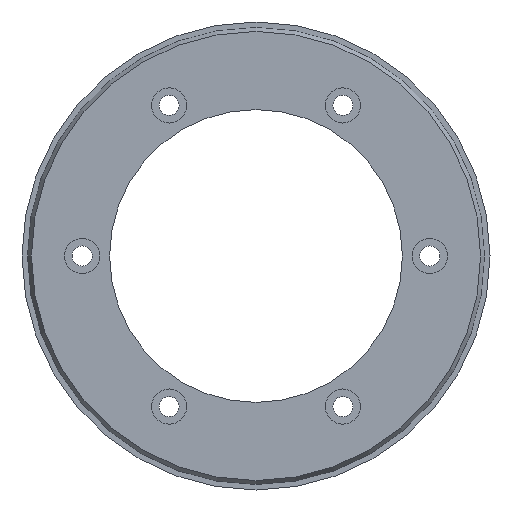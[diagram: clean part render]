
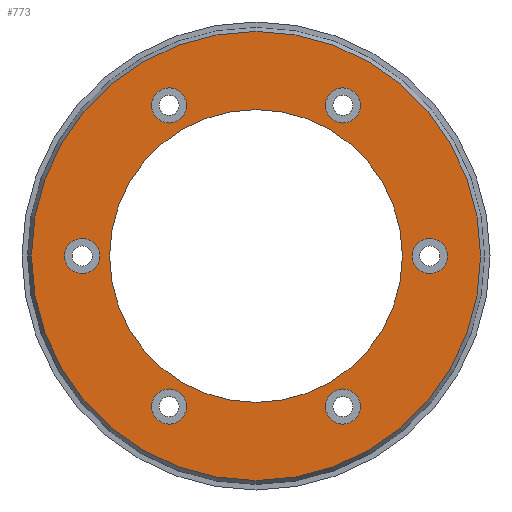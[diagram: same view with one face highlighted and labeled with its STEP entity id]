
A CAD part, left-side view. The second image highlights one B-rep face of the part: STEP entity #773.
In plain terms, the highlighted planar face has unit normal (-1, 0, 0).
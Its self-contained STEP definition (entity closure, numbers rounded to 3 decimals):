
#122=CARTESIAN_POINT('',(0.,22.334,-30.984));
#123=VERTEX_POINT('',#122);
#124=CARTESIAN_POINT('',(0.,19.,-32.909));
#125=DIRECTION('',(1.0,0.,0.));
#126=DIRECTION('',(0.,0.866,0.5));
#127=AXIS2_PLACEMENT_3D('',#124,#125,#126);
#128=CIRCLE('',#127,3.85);
#129=EDGE_CURVE('',#123,#123,#128,.T.);
#232=CARTESIAN_POINT('',(0.,-15.666,-34.834));
#233=VERTEX_POINT('',#232);
#234=CARTESIAN_POINT('',(0.,-19.,-32.909));
#235=DIRECTION('',(1.0,0.,0.));
#236=DIRECTION('',(0.,0.866,-0.5));
#237=AXIS2_PLACEMENT_3D('',#234,#235,#236);
#238=CIRCLE('',#237,3.85);
#239=EDGE_CURVE('',#233,#233,#238,.T.);
#342=CARTESIAN_POINT('',(0.,-38.,-3.85));
#343=VERTEX_POINT('',#342);
#344=CARTESIAN_POINT('',(0.,-38.0,0.));
#345=DIRECTION('',(1.0,0.0,0.0));
#346=DIRECTION('',(0.0,0.0,-1.0));
#347=AXIS2_PLACEMENT_3D('',#344,#345,#346);
#348=CIRCLE('',#347,3.85);
#349=EDGE_CURVE('',#343,#343,#348,.T.);
#452=CARTESIAN_POINT('',(0.,-22.334,30.984));
#453=VERTEX_POINT('',#452);
#454=CARTESIAN_POINT('',(0.,-19.,32.909));
#455=DIRECTION('',(1.0,0.,0.));
#456=DIRECTION('',(0.,-0.866,-0.5));
#457=AXIS2_PLACEMENT_3D('',#454,#455,#456);
#458=CIRCLE('',#457,3.85);
#459=EDGE_CURVE('',#453,#453,#458,.T.);
#562=CARTESIAN_POINT('',(0.,15.666,34.834));
#563=VERTEX_POINT('',#562);
#564=CARTESIAN_POINT('',(0.,19.,32.909));
#565=DIRECTION('',(1.0,0.,0.));
#566=DIRECTION('',(0.,-0.866,0.5));
#567=AXIS2_PLACEMENT_3D('',#564,#565,#566);
#568=CIRCLE('',#567,3.85);
#569=EDGE_CURVE('',#563,#563,#568,.T.);
#672=CARTESIAN_POINT('',(0.,38.0,3.85));
#673=VERTEX_POINT('',#672);
#674=CARTESIAN_POINT('',(0.0,38.0,0.0));
#675=DIRECTION('',(1.0,0.0,0.0));
#676=DIRECTION('',(0.0,0.0,1.0));
#677=AXIS2_PLACEMENT_3D('',#674,#675,#676);
#678=CIRCLE('',#677,3.85);
#679=EDGE_CURVE('',#673,#673,#678,.T.);
#728=CARTESIAN_POINT('',(0.,40.542,0.0));
#729=DIRECTION('',(-1.0,0.0,0.0));
#730=DIRECTION('',(0.0,0.0,1.0));
#731=AXIS2_PLACEMENT_3D('',#728,#729,#730);
#732=PLANE('',#731);
#733=CARTESIAN_POINT('',(0.,49.084,0.0));
#734=VERTEX_POINT('',#733);
#735=CARTESIAN_POINT('',(0.0,0.0,0.0));
#736=DIRECTION('',(1.0,0.0,0.0));
#737=DIRECTION('',(0.0,1.0,0.0));
#738=AXIS2_PLACEMENT_3D('',#735,#736,#737);
#739=CIRCLE('',#738,49.084);
#740=EDGE_CURVE('',#734,#734,#739,.T.);
#741=ORIENTED_EDGE('',*,*,#740,.F.);
#742=EDGE_LOOP('',(#741));
#743=FACE_OUTER_BOUND('',#742,.T.);
#744=ORIENTED_EDGE('',*,*,#129,.T.);
#745=EDGE_LOOP('',(#744));
#746=FACE_BOUND('',#745,.T.);
#747=ORIENTED_EDGE('',*,*,#239,.T.);
#748=EDGE_LOOP('',(#747));
#749=FACE_BOUND('',#748,.T.);
#750=ORIENTED_EDGE('',*,*,#349,.T.);
#751=EDGE_LOOP('',(#750));
#752=FACE_BOUND('',#751,.T.);
#753=ORIENTED_EDGE('',*,*,#459,.T.);
#754=EDGE_LOOP('',(#753));
#755=FACE_BOUND('',#754,.T.);
#756=ORIENTED_EDGE('',*,*,#569,.T.);
#757=EDGE_LOOP('',(#756));
#758=FACE_BOUND('',#757,.T.);
#759=ORIENTED_EDGE('',*,*,#679,.T.);
#760=EDGE_LOOP('',(#759));
#761=FACE_BOUND('',#760,.T.);
#762=CARTESIAN_POINT('',(0.,32.0,0.0));
#763=VERTEX_POINT('',#762);
#764=CARTESIAN_POINT('',(0.0,0.0,0.0));
#765=DIRECTION('',(1.0,0.0,0.0));
#766=DIRECTION('',(0.0,1.0,0.0));
#767=AXIS2_PLACEMENT_3D('',#764,#765,#766);
#768=CIRCLE('',#767,32.0);
#769=EDGE_CURVE('',#763,#763,#768,.T.);
#770=ORIENTED_EDGE('',*,*,#769,.T.);
#771=EDGE_LOOP('',(#770));
#772=FACE_BOUND('',#771,.T.);
#773=ADVANCED_FACE('',(#743,#746,#749,#752,#755,#758,#761,#772),#732,.T.);
